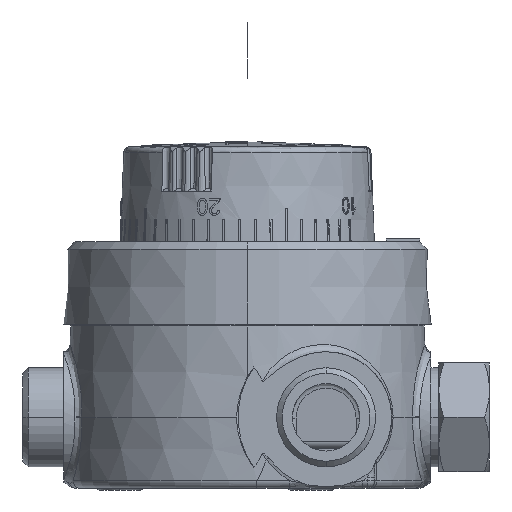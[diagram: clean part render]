
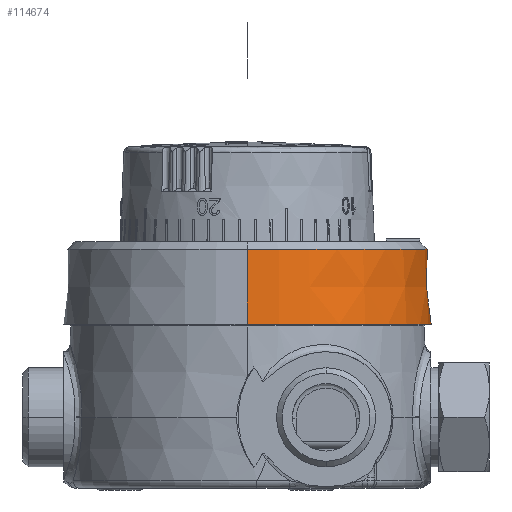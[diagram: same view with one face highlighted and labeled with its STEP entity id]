
A CAD part, left-side view. The second image highlights one B-rep face of the part: STEP entity #114674.
In plain terms, the highlighted conical face has half-angle 3 degrees and reference radius 48 mm.
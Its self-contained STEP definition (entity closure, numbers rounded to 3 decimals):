
#2689 = LINE ( 'NONE', #11810, #124811 ) ;
#5811 = CARTESIAN_POINT ( 'NONE',  ( 48., 0., 10. ) ) ;
#7731 = CONICAL_SURFACE ( 'NONE', #106247, 48., 0.052 ) ;
#11810 = CARTESIAN_POINT ( 'NONE',  ( -48., 0., 10. ) ) ;
#15859 = ORIENTED_EDGE ( 'NONE', *, *, #73046, .T. ) ;
#16974 = ORIENTED_EDGE ( 'NONE', *, *, #110507, .T. ) ;
#21537 = DIRECTION ( 'NONE',  ( -0.052, 0., -0.999 ) ) ;
#22059 = CARTESIAN_POINT ( 'NONE',  ( 0., 0., 10. ) ) ;
#23847 = CARTESIAN_POINT ( 'NONE',  ( 0., 0., 10. ) ) ;
#24739 = CARTESIAN_POINT ( 'NONE',  ( -49.048, 0., -10. ) ) ;
#27193 = ORIENTED_EDGE ( 'NONE', *, *, #100853, .F. ) ;
#28453 = VERTEX_POINT ( 'NONE', #88404 ) ;
#29789 = ORIENTED_EDGE ( 'NONE', *, *, #120447, .F. ) ;
#31709 = DIRECTION ( 'NONE',  ( -1., 0., 0. ) ) ;
#32895 = LINE ( 'NONE', #110417, #106692 ) ;
#33529 = DIRECTION ( 'NONE',  ( 0., 0., -1. ) ) ;
#36339 = FACE_OUTER_BOUND ( 'NONE', #78846, .T. ) ;
#40456 = AXIS2_PLACEMENT_3D ( 'NONE', #22059, #89374, #31709 ) ;
#41584 = VERTEX_POINT ( 'NONE', #24739 ) ;
#48495 = DIRECTION ( 'NONE',  ( 0., 0., -1. ) ) ;
#73046 = EDGE_CURVE ( 'NONE', #119458, #28453, #80348, .T. ) ;
#78846 = EDGE_LOOP ( 'NONE', ( #29789, #15859, #16974, #27193 ) ) ;
#79874 = DIRECTION ( 'NONE',  ( -1., 0., 0. ) ) ;
#80348 = CIRCLE ( 'NONE', #40456, 48. ) ;
#80949 = DIRECTION ( 'NONE',  ( 0.052, 0., -0.999 ) ) ;
#88404 = CARTESIAN_POINT ( 'NONE',  ( -48., 0., 10. ) ) ;
#89374 = DIRECTION ( 'NONE',  ( 0., 0., -1. ) ) ;
#93888 = CARTESIAN_POINT ( 'NONE',  ( 49.048, 0., -10. ) ) ;
#100853 = EDGE_CURVE ( 'NONE', #124912, #41584, #106360, .T. ) ;
#104956 = AXIS2_PLACEMENT_3D ( 'NONE', #106121, #48495, #115831 ) ;
#106121 = CARTESIAN_POINT ( 'NONE',  ( 0., 0., -10. ) ) ;
#106247 = AXIS2_PLACEMENT_3D ( 'NONE', #23847, #33529, #79874 ) ;
#106360 = CIRCLE ( 'NONE', #104956, 49.048 ) ;
#106692 = VECTOR ( 'NONE', #80949, 1000. ) ;
#110417 = CARTESIAN_POINT ( 'NONE',  ( 48., 0., 10. ) ) ;
#110507 = EDGE_CURVE ( 'NONE', #28453, #41584, #2689, .T. ) ;
#114674 = ADVANCED_FACE ( 'NONE', ( #36339 ), #7731, .T. ) ;
#115831 = DIRECTION ( 'NONE',  ( -1., 0., 0. ) ) ;
#119458 = VERTEX_POINT ( 'NONE', #5811 ) ;
#120447 = EDGE_CURVE ( 'NONE', #119458, #124912, #32895, .T. ) ;
#124811 = VECTOR ( 'NONE', #21537, 1000. ) ;
#124912 = VERTEX_POINT ( 'NONE', #93888 ) ;
